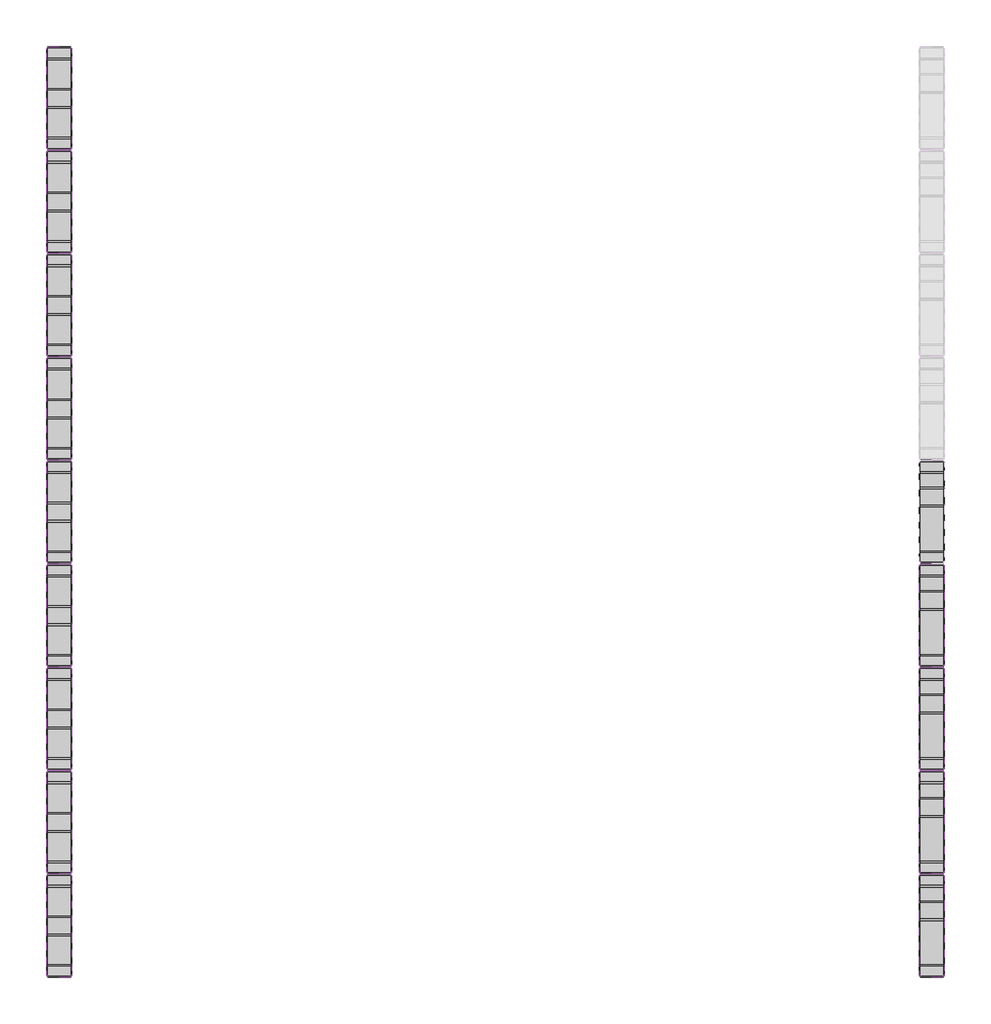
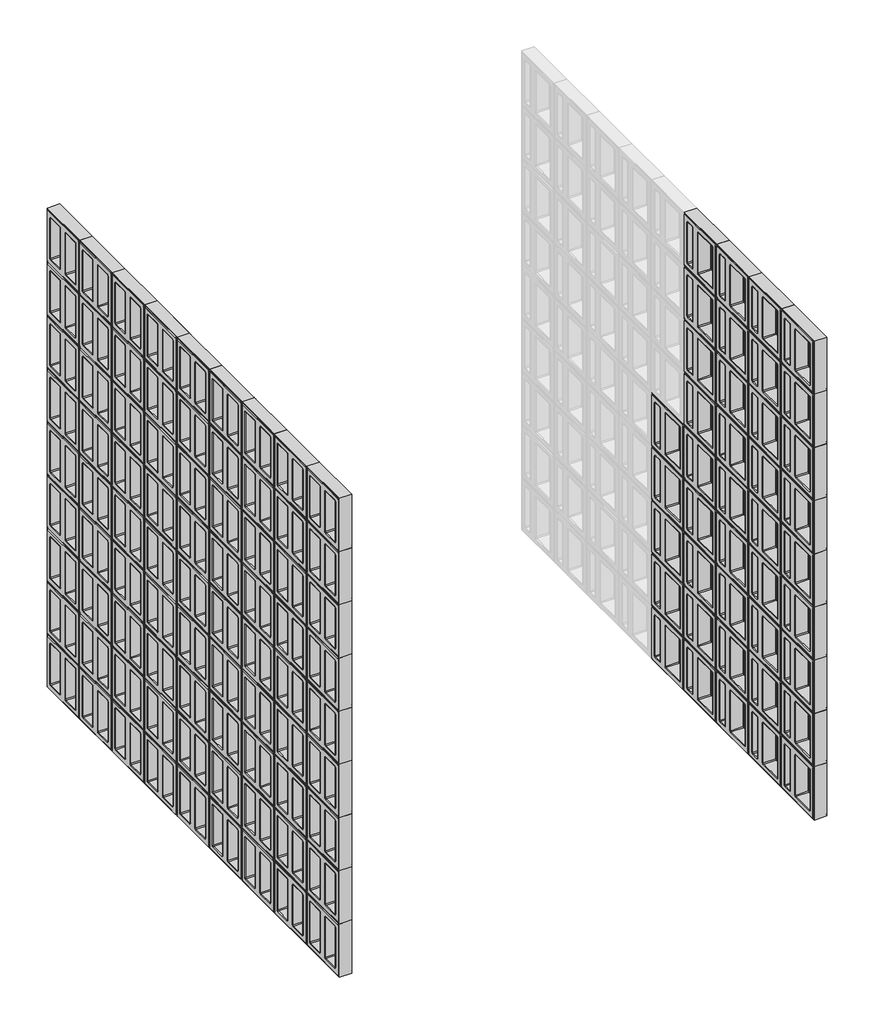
# One storey, part 1 of 8: 122 plates.
"""IFC4 building model written with IfcOpenShell, lengths in millimetres."""

from ifc_helpers import new_model, si_unit, origin, place, context, project, spatial, transform, mapped, element, save
from components import plate_08ec880d, sim_branco_8a5b93f5

model = new_model("IFC4")

# Units and contexts
model_context = context("Model", 3, world=origin())
ifc_project = project(units=[si_unit("LENGTHUNIT", "METRE", prefix="MILLI")], contexts=[model_context])

# Site, building, storey
site = spatial("IfcSite", under=ifc_project)
building = spatial("IfcBuilding", under=site)
storey = spatial("IfcBuildingStorey", under=building, Name="PORTOBELLO - SHOWROOM", Elevation=0.0)

# Plates
placement = place(None, origin())
plate_shape = plate_08ec880d(model_context)
element("IfcPlate", 1, ObjectType="PORTOBELLO - ELEMENTO ASSIM BRANCO 30X30 (PAINEL CORTINA) : ASSIM BRANCO", at=placement, inside=storey, context=model_context, shape_type="MappedRepresentation", body=[
    mapped(plate_shape, transform((149974.9354422, 3478.9733076, 0.0), x_axis=(0.0, 1.0, 0.0), y_axis=(-1.0, 0.0, 0.0), z_axis=(0.0, 0.0, 1.0))),
])
element("IfcPlate", 2, ObjectType="PORTOBELLO - ELEMENTO ASSIM BRANCO 30X30 (PAINEL CORTINA) : ASSIM BRANCO", at=placement, inside=storey, context=model_context, shape_type="MappedRepresentation", body=[
    mapped(plate_shape, transform((149974.9354422, 3478.9733076, 308.0), x_axis=(0.0, 1.0, 0.0), y_axis=(-1.0, 0.0, 0.0), z_axis=(0.0, 0.0, 1.0))),
])
element("IfcPlate", 3, ObjectType="PORTOBELLO - ELEMENTO ASSIM BRANCO 30X30 (PAINEL CORTINA) : ASSIM BRANCO", at=placement, inside=storey, context=model_context, shape_type="MappedRepresentation", body=[
    mapped(plate_shape, transform((149974.9354422, 3478.9733076, 616.0), x_axis=(0.0, 1.0, 0.0), y_axis=(-1.0, 0.0, 0.0), z_axis=(0.0, 0.0, 1.0))),
])
element("IfcPlate", 4, ObjectType="PORTOBELLO - ELEMENTO ASSIM BRANCO 30X30 (PAINEL CORTINA) : ASSIM BRANCO", at=placement, inside=storey, context=model_context, shape_type="MappedRepresentation", body=[
    mapped(plate_shape, transform((149974.9354422, 3478.9733076, 924.0), x_axis=(0.0, 1.0, 0.0), y_axis=(-1.0, 0.0, 0.0), z_axis=(0.0, 0.0, 1.0))),
])
element("IfcPlate", 5, ObjectType="PORTOBELLO - ELEMENTO ASSIM BRANCO 30X30 (PAINEL CORTINA) : ASSIM BRANCO", at=placement, inside=storey, context=model_context, shape_type="MappedRepresentation", body=[
    mapped(plate_shape, transform((149974.9354422, 3478.9733076, 1232.0), x_axis=(0.0, 1.0, 0.0), y_axis=(-1.0, 0.0, 0.0), z_axis=(0.0, 0.0, 1.0))),
])
element("IfcPlate", 6, ObjectType="PORTOBELLO - ELEMENTO ASSIM BRANCO 30X30 (PAINEL CORTINA) : ASSIM BRANCO", at=placement, inside=storey, context=model_context, shape_type="MappedRepresentation", body=[
    mapped(plate_shape, transform((149974.9354422, 3478.9733076, 1540.0), x_axis=(0.0, 1.0, 0.0), y_axis=(-1.0, 0.0, 0.0), z_axis=(0.0, 0.0, 1.0))),
])
element("IfcPlate", 7, ObjectType="PORTOBELLO - ELEMENTO ASSIM BRANCO 30X30 (PAINEL CORTINA) : ASSIM BRANCO", at=placement, inside=storey, context=model_context, shape_type="MappedRepresentation", body=[
    mapped(plate_shape, transform((149974.9354422, 3478.9733076, 1848.0), x_axis=(0.0, 1.0, 0.0), y_axis=(-1.0, 0.0, 0.0), z_axis=(0.0, 0.0, 1.0))),
])
element("IfcPlate", 8, ObjectType="PORTOBELLO - ELEMENTO ASSIM BRANCO 30X30 (PAINEL CORTINA) : ASSIM BRANCO", at=placement, inside=storey, context=model_context, shape_type="MappedRepresentation", body=[
    mapped(plate_shape, transform((149974.9354422, 3478.9733076, 2156.0), x_axis=(0.0, 1.0, 0.0), y_axis=(-1.0, 0.0, 0.0), z_axis=(0.0, 0.0, 1.0))),
])
element("IfcPlate", 9, ObjectType="PORTOBELLO - ELEMENTO ASSIM BRANCO 30X30 (PAINEL CORTINA) : ASSIM BRANCO", at=placement, inside=storey, context=model_context, shape_type="MappedRepresentation", body=[
    mapped(plate_shape, transform((149974.9354422, 3786.9733077, 0.0), x_axis=(0.0, 1.0, 0.0), y_axis=(-1.0, 0.0, 0.0), z_axis=(0.0, 0.0, 1.0))),
])
element("IfcPlate", 10, ObjectType="PORTOBELLO - ELEMENTO ASSIM BRANCO 30X30 (PAINEL CORTINA) : ASSIM BRANCO", at=placement, inside=storey, context=model_context, shape_type="MappedRepresentation", body=[
    mapped(plate_shape, transform((149974.9354422, 3786.9733077, 308.0), x_axis=(0.0, 1.0, 0.0), y_axis=(-1.0, 0.0, 0.0), z_axis=(0.0, 0.0, 1.0))),
])
element("IfcPlate", 11, ObjectType="PORTOBELLO - ELEMENTO ASSIM BRANCO 30X30 (PAINEL CORTINA) : ASSIM BRANCO", at=placement, inside=storey, context=model_context, shape_type="MappedRepresentation", body=[
    mapped(plate_shape, transform((149974.9354422, 3786.9733077, 616.0), x_axis=(0.0, 1.0, 0.0), y_axis=(-1.0, 0.0, 0.0), z_axis=(0.0, 0.0, 1.0))),
])
element("IfcPlate", 12, ObjectType="PORTOBELLO - ELEMENTO ASSIM BRANCO 30X30 (PAINEL CORTINA) : ASSIM BRANCO", at=placement, inside=storey, context=model_context, shape_type="MappedRepresentation", body=[
    mapped(plate_shape, transform((149974.9354422, 3786.9733077, 924.0), x_axis=(0.0, 1.0, 0.0), y_axis=(-1.0, 0.0, 0.0), z_axis=(0.0, 0.0, 1.0))),
])
element("IfcPlate", 13, ObjectType="PORTOBELLO - ELEMENTO ASSIM BRANCO 30X30 (PAINEL CORTINA) : ASSIM BRANCO", at=placement, inside=storey, context=model_context, shape_type="MappedRepresentation", body=[
    mapped(plate_shape, transform((149974.9354422, 3786.9733077, 1232.0), x_axis=(0.0, 1.0, 0.0), y_axis=(-1.0, 0.0, 0.0), z_axis=(0.0, 0.0, 1.0))),
])
element("IfcPlate", 14, ObjectType="PORTOBELLO - ELEMENTO ASSIM BRANCO 30X30 (PAINEL CORTINA) : ASSIM BRANCO", at=placement, inside=storey, context=model_context, shape_type="MappedRepresentation", body=[
    mapped(plate_shape, transform((149974.9354422, 3786.9733077, 1540.0), x_axis=(0.0, 1.0, 0.0), y_axis=(-1.0, 0.0, 0.0), z_axis=(0.0, 0.0, 1.0))),
])
element("IfcPlate", 15, ObjectType="PORTOBELLO - ELEMENTO ASSIM BRANCO 30X30 (PAINEL CORTINA) : ASSIM BRANCO", at=placement, inside=storey, context=model_context, shape_type="MappedRepresentation", body=[
    mapped(plate_shape, transform((149974.9354422, 3786.9733077, 1848.0), x_axis=(0.0, 1.0, 0.0), y_axis=(-1.0, 0.0, 0.0), z_axis=(0.0, 0.0, 1.0))),
])
element("IfcPlate", 16, ObjectType="PORTOBELLO - ELEMENTO ASSIM BRANCO 30X30 (PAINEL CORTINA) : ASSIM BRANCO", at=placement, inside=storey, context=model_context, shape_type="MappedRepresentation", body=[
    mapped(plate_shape, transform((149974.9354422, 3786.9733077, 2156.0), x_axis=(0.0, 1.0, 0.0), y_axis=(-1.0, 0.0, 0.0), z_axis=(0.0, 0.0, 1.0))),
])
element("IfcPlate", 17, ObjectType="PORTOBELLO - ELEMENTO ASSIM BRANCO 30X30 (PAINEL CORTINA) : ASSIM BRANCO", at=placement, inside=storey, context=model_context, shape_type="MappedRepresentation", body=[
    mapped(plate_shape, transform((149974.9354422, 4094.9733077, 0.0), x_axis=(0.0, 1.0, 0.0), y_axis=(-1.0, 0.0, 0.0), z_axis=(0.0, 0.0, 1.0))),
])
element("IfcPlate", 18, ObjectType="PORTOBELLO - ELEMENTO ASSIM BRANCO 30X30 (PAINEL CORTINA) : ASSIM BRANCO", at=placement, inside=storey, context=model_context, shape_type="MappedRepresentation", body=[
    mapped(plate_shape, transform((149974.9354422, 4094.9733077, 308.0), x_axis=(0.0, 1.0, 0.0), y_axis=(-1.0, 0.0, 0.0), z_axis=(0.0, 0.0, 1.0))),
])
element("IfcPlate", 19, ObjectType="PORTOBELLO - ELEMENTO ASSIM BRANCO 30X30 (PAINEL CORTINA) : ASSIM BRANCO", at=placement, inside=storey, context=model_context, shape_type="MappedRepresentation", body=[
    mapped(plate_shape, transform((149974.9354422, 4094.9733077, 616.0), x_axis=(0.0, 1.0, 0.0), y_axis=(-1.0, 0.0, 0.0), z_axis=(0.0, 0.0, 1.0))),
])
element("IfcPlate", 20, ObjectType="PORTOBELLO - ELEMENTO ASSIM BRANCO 30X30 (PAINEL CORTINA) : ASSIM BRANCO", at=placement, inside=storey, context=model_context, shape_type="MappedRepresentation", body=[
    mapped(plate_shape, transform((149974.9354422, 4094.9733077, 924.0), x_axis=(0.0, 1.0, 0.0), y_axis=(-1.0, 0.0, 0.0), z_axis=(0.0, 0.0, 1.0))),
])
element("IfcPlate", 21, ObjectType="PORTOBELLO - ELEMENTO ASSIM BRANCO 30X30 (PAINEL CORTINA) : ASSIM BRANCO", at=placement, inside=storey, context=model_context, shape_type="MappedRepresentation", body=[
    mapped(plate_shape, transform((149974.9354422, 4094.9733077, 1232.0), x_axis=(0.0, 1.0, 0.0), y_axis=(-1.0, 0.0, 0.0), z_axis=(0.0, 0.0, 1.0))),
])
element("IfcPlate", 22, ObjectType="PORTOBELLO - ELEMENTO ASSIM BRANCO 30X30 (PAINEL CORTINA) : ASSIM BRANCO", at=placement, inside=storey, context=model_context, shape_type="MappedRepresentation", body=[
    mapped(plate_shape, transform((149974.9354422, 4094.9733077, 1540.0), x_axis=(0.0, 1.0, 0.0), y_axis=(-1.0, 0.0, 0.0), z_axis=(0.0, 0.0, 1.0))),
])
element("IfcPlate", 23, ObjectType="PORTOBELLO - ELEMENTO ASSIM BRANCO 30X30 (PAINEL CORTINA) : ASSIM BRANCO", at=placement, inside=storey, context=model_context, shape_type="MappedRepresentation", body=[
    mapped(plate_shape, transform((149974.9354422, 4094.9733077, 1848.0), x_axis=(0.0, 1.0, 0.0), y_axis=(-1.0, 0.0, 0.0), z_axis=(0.0, 0.0, 1.0))),
])
element("IfcPlate", 24, ObjectType="PORTOBELLO - ELEMENTO ASSIM BRANCO 30X30 (PAINEL CORTINA) : ASSIM BRANCO", at=placement, inside=storey, context=model_context, shape_type="MappedRepresentation", body=[
    mapped(plate_shape, transform((149974.9354422, 4094.9733077, 2156.0), x_axis=(0.0, 1.0, 0.0), y_axis=(-1.0, 0.0, 0.0), z_axis=(0.0, 0.0, 1.0))),
])
element("IfcPlate", 25, ObjectType="PORTOBELLO - ELEMENTO ASSIM BRANCO 30X30 (PAINEL CORTINA) : ASSIM BRANCO", at=placement, inside=storey, context=model_context, shape_type="MappedRepresentation", body=[
    mapped(plate_shape, transform((149974.9354422, 4402.9733077, 0.0), x_axis=(0.0, 1.0, 0.0), y_axis=(-1.0, 0.0, 0.0), z_axis=(0.0, 0.0, 1.0))),
])
element("IfcPlate", 26, ObjectType="PORTOBELLO - ELEMENTO ASSIM BRANCO 30X30 (PAINEL CORTINA) : ASSIM BRANCO", at=placement, inside=storey, context=model_context, shape_type="MappedRepresentation", body=[
    mapped(plate_shape, transform((149974.9354422, 4402.9733077, 308.0), x_axis=(0.0, 1.0, 0.0), y_axis=(-1.0, 0.0, 0.0), z_axis=(0.0, 0.0, 1.0))),
])
element("IfcPlate", 27, ObjectType="PORTOBELLO - ELEMENTO ASSIM BRANCO 30X30 (PAINEL CORTINA) : ASSIM BRANCO", at=placement, inside=storey, context=model_context, shape_type="MappedRepresentation", body=[
    mapped(plate_shape, transform((149974.9354422, 4402.9733077, 616.0), x_axis=(0.0, 1.0, 0.0), y_axis=(-1.0, 0.0, 0.0), z_axis=(0.0, 0.0, 1.0))),
])
element("IfcPlate", 28, ObjectType="PORTOBELLO - ELEMENTO ASSIM BRANCO 30X30 (PAINEL CORTINA) : ASSIM BRANCO", at=placement, inside=storey, context=model_context, shape_type="MappedRepresentation", body=[
    mapped(plate_shape, transform((149974.9354422, 4402.9733077, 924.0), x_axis=(0.0, 1.0, 0.0), y_axis=(-1.0, 0.0, 0.0), z_axis=(0.0, 0.0, 1.0))),
])
element("IfcPlate", 29, ObjectType="PORTOBELLO - ELEMENTO ASSIM BRANCO 30X30 (PAINEL CORTINA) : ASSIM BRANCO", at=placement, inside=storey, context=model_context, shape_type="MappedRepresentation", body=[
    mapped(plate_shape, transform((149974.9354422, 4402.9733077, 1232.0), x_axis=(0.0, 1.0, 0.0), y_axis=(-1.0, 0.0, 0.0), z_axis=(0.0, 0.0, 1.0))),
])
element("IfcPlate", 30, ObjectType="PORTOBELLO - ELEMENTO ASSIM BRANCO 30X30 (PAINEL CORTINA) : ASSIM BRANCO", at=placement, inside=storey, context=model_context, shape_type="MappedRepresentation", body=[
    mapped(plate_shape, transform((149974.9354422, 4402.9733077, 1540.0), x_axis=(0.0, 1.0, 0.0), y_axis=(-1.0, 0.0, 0.0), z_axis=(0.0, 0.0, 1.0))),
])
element("IfcPlate", 31, ObjectType="PORTOBELLO - ELEMENTO ASSIM BRANCO 30X30 (PAINEL CORTINA) : ASSIM BRANCO", at=placement, inside=storey, context=model_context, shape_type="MappedRepresentation", body=[
    mapped(plate_shape, transform((149974.9354422, 4402.9733077, 1848.0), x_axis=(0.0, 1.0, 0.0), y_axis=(-1.0, 0.0, 0.0), z_axis=(0.0, 0.0, 1.0))),
])
element("IfcPlate", 32, ObjectType="PORTOBELLO - ELEMENTO ASSIM BRANCO 30X30 (PAINEL CORTINA) : ASSIM BRANCO", at=placement, inside=storey, context=model_context, shape_type="MappedRepresentation", body=[
    mapped(plate_shape, transform((149974.9354422, 4402.9733077, 2156.0), x_axis=(0.0, 1.0, 0.0), y_axis=(-1.0, 0.0, 0.0), z_axis=(0.0, 0.0, 1.0))),
])
element("IfcPlate", 33, ObjectType="PORTOBELLO - ELEMENTO ASSIM BRANCO 30X30 (PAINEL CORTINA) : ASSIM BRANCO", at=placement, inside=storey, context=model_context, shape_type="MappedRepresentation", body=[
    mapped(plate_shape, transform((149974.9354422, 4710.9733077, 0.0), x_axis=(0.0, 1.0, 0.0), y_axis=(-1.0, 0.0, 0.0), z_axis=(0.0, 0.0, 1.0))),
])
element("IfcPlate", 34, ObjectType="PORTOBELLO - ELEMENTO ASSIM BRANCO 30X30 (PAINEL CORTINA) : ASSIM BRANCO", at=placement, inside=storey, context=model_context, shape_type="MappedRepresentation", body=[
    mapped(plate_shape, transform((149974.9354422, 4710.9733077, 308.0), x_axis=(0.0, 1.0, 0.0), y_axis=(-1.0, 0.0, 0.0), z_axis=(0.0, 0.0, 1.0))),
])
element("IfcPlate", 35, ObjectType="PORTOBELLO - ELEMENTO ASSIM BRANCO 30X30 (PAINEL CORTINA) : ASSIM BRANCO", at=placement, inside=storey, context=model_context, shape_type="MappedRepresentation", body=[
    mapped(plate_shape, transform((149974.9354422, 4710.9733077, 616.0), x_axis=(0.0, 1.0, 0.0), y_axis=(-1.0, 0.0, 0.0), z_axis=(0.0, 0.0, 1.0))),
])
element("IfcPlate", 36, ObjectType="PORTOBELLO - ELEMENTO ASSIM BRANCO 30X30 (PAINEL CORTINA) : ASSIM BRANCO", at=placement, inside=storey, context=model_context, shape_type="MappedRepresentation", body=[
    mapped(plate_shape, transform((149974.9354422, 4710.9733077, 924.0), x_axis=(0.0, 1.0, 0.0), y_axis=(-1.0, 0.0, 0.0), z_axis=(0.0, 0.0, 1.0))),
])
element("IfcPlate", 37, ObjectType="PORTOBELLO - ELEMENTO ASSIM BRANCO 30X30 (PAINEL CORTINA) : ASSIM BRANCO", at=placement, inside=storey, context=model_context, shape_type="MappedRepresentation", body=[
    mapped(plate_shape, transform((149974.9354422, 4710.9733077, 1232.0), x_axis=(0.0, 1.0, 0.0), y_axis=(-1.0, 0.0, 0.0), z_axis=(0.0, 0.0, 1.0))),
])
element("IfcPlate", 38, ObjectType="PORTOBELLO - ELEMENTO ASSIM BRANCO 30X30 (PAINEL CORTINA) : ASSIM BRANCO", at=placement, inside=storey, context=model_context, shape_type="MappedRepresentation", body=[
    mapped(plate_shape, transform((149974.9354422, 3478.9733076, 2464.0), x_axis=(0.0, 1.0, 0.0), y_axis=(-1.0, 0.0, 0.0), z_axis=(0.0, 0.0, 1.0))),
])
element("IfcPlate", 39, ObjectType="PORTOBELLO - ELEMENTO ASSIM BRANCO 30X30 (PAINEL CORTINA) : ASSIM BRANCO", at=placement, inside=storey, context=model_context, shape_type="MappedRepresentation", body=[
    mapped(plate_shape, transform((149974.9354422, 3786.9733077, 2464.0), x_axis=(0.0, 1.0, 0.0), y_axis=(-1.0, 0.0, 0.0), z_axis=(0.0, 0.0, 1.0))),
])
element("IfcPlate", 40, ObjectType="PORTOBELLO - ELEMENTO ASSIM BRANCO 30X30 (PAINEL CORTINA) : ASSIM BRANCO", at=placement, inside=storey, context=model_context, shape_type="MappedRepresentation", body=[
    mapped(plate_shape, transform((149974.9354422, 4094.9733077, 2464.0), x_axis=(0.0, 1.0, 0.0), y_axis=(-1.0, 0.0, 0.0), z_axis=(0.0, 0.0, 1.0))),
])
element("IfcPlate", 41, ObjectType="PORTOBELLO - ELEMENTO ASSIM BRANCO 30X30 (PAINEL CORTINA) : ASSIM BRANCO", at=placement, inside=storey, context=model_context, shape_type="MappedRepresentation", body=[
    mapped(plate_shape, transform((149974.9354422, 4402.9733077, 2464.0), x_axis=(0.0, 1.0, 0.0), y_axis=(-1.0, 0.0, 0.0), z_axis=(0.0, 0.0, 1.0))),
])
sim_branco_shape = sim_branco_8a5b93f5(model_context)
element("IfcPlate", 42, ObjectType="PORTOBELLO - ELEMENTO SIM BRANCO 30X30 (PAINEL CORTINA) : SIM BRANCO", at=placement, inside=storey, context=model_context, shape_type="MappedRepresentation", body=[
    mapped(sim_branco_shape, transform((147374.9354422, 3478.9733076, 0.0), x_axis=(0.0, 1.0, 0.0), y_axis=(-1.0, 0.0, 0.0), z_axis=(0.0, 0.0, 1.0))),
])
element("IfcPlate", 43, ObjectType="PORTOBELLO - ELEMENTO SIM BRANCO 30X30 (PAINEL CORTINA) : SIM BRANCO", at=placement, inside=storey, context=model_context, shape_type="MappedRepresentation", body=[
    mapped(sim_branco_shape, transform((147374.9354422, 3786.9733077, 0.0), x_axis=(0.0, 1.0, 0.0), y_axis=(-1.0, 0.0, 0.0), z_axis=(0.0, 0.0, 1.0))),
])
element("IfcPlate", 44, ObjectType="PORTOBELLO - ELEMENTO SIM BRANCO 30X30 (PAINEL CORTINA) : SIM BRANCO", at=placement, inside=storey, context=model_context, shape_type="MappedRepresentation", body=[
    mapped(sim_branco_shape, transform((147374.9354422, 4094.9733077, 0.0), x_axis=(0.0, 1.0, 0.0), y_axis=(-1.0, 0.0, 0.0), z_axis=(0.0, 0.0, 1.0))),
])
element("IfcPlate", 45, ObjectType="PORTOBELLO - ELEMENTO SIM BRANCO 30X30 (PAINEL CORTINA) : SIM BRANCO", at=placement, inside=storey, context=model_context, shape_type="MappedRepresentation", body=[
    mapped(sim_branco_shape, transform((147374.9354422, 4402.9733077, 0.0), x_axis=(0.0, 1.0, 0.0), y_axis=(-1.0, 0.0, 0.0), z_axis=(0.0, 0.0, 1.0))),
])
element("IfcPlate", 46, ObjectType="PORTOBELLO - ELEMENTO SIM BRANCO 30X30 (PAINEL CORTINA) : SIM BRANCO", at=placement, inside=storey, context=model_context, shape_type="MappedRepresentation", body=[
    mapped(sim_branco_shape, transform((147374.9354422, 4710.9733077, 0.0), x_axis=(0.0, 1.0, 0.0), y_axis=(-1.0, 0.0, 0.0), z_axis=(0.0, 0.0, 1.0))),
])
element("IfcPlate", 47, ObjectType="PORTOBELLO - ELEMENTO SIM BRANCO 30X30 (PAINEL CORTINA) : SIM BRANCO", at=placement, inside=storey, context=model_context, shape_type="MappedRepresentation", body=[
    mapped(sim_branco_shape, transform((147374.9354422, 5018.9733077, 0.0), x_axis=(0.0, 1.0, 0.0), y_axis=(-1.0, 0.0, 0.0), z_axis=(0.0, 0.0, 1.0))),
])
element("IfcPlate", 48, ObjectType="PORTOBELLO - ELEMENTO SIM BRANCO 30X30 (PAINEL CORTINA) : SIM BRANCO", at=placement, inside=storey, context=model_context, shape_type="MappedRepresentation", body=[
    mapped(sim_branco_shape, transform((147374.9354422, 5326.9733077, 0.0), x_axis=(0.0, 1.0, 0.0), y_axis=(-1.0, 0.0, 0.0), z_axis=(0.0, 0.0, 1.0))),
])
element("IfcPlate", 49, ObjectType="PORTOBELLO - ELEMENTO SIM BRANCO 30X30 (PAINEL CORTINA) : SIM BRANCO", at=placement, inside=storey, context=model_context, shape_type="MappedRepresentation", body=[
    mapped(sim_branco_shape, transform((147374.9354422, 5634.9733077, 0.0), x_axis=(0.0, 1.0, 0.0), y_axis=(-1.0, 0.0, 0.0), z_axis=(0.0, 0.0, 1.0))),
])
element("IfcPlate", 50, ObjectType="PORTOBELLO - ELEMENTO SIM BRANCO 30X30 (PAINEL CORTINA) : SIM BRANCO", at=placement, inside=storey, context=model_context, shape_type="MappedRepresentation", body=[
    mapped(sim_branco_shape, transform((147374.9354422, 5942.9733077, 0.0), x_axis=(0.0, 1.0, 0.0), y_axis=(-1.0, 0.0, 0.0), z_axis=(0.0, 0.0, 1.0))),
])
element("IfcPlate", 51, ObjectType="PORTOBELLO - ELEMENTO SIM BRANCO 30X30 (PAINEL CORTINA) : SIM BRANCO", at=placement, inside=storey, context=model_context, shape_type="MappedRepresentation", body=[
    mapped(sim_branco_shape, transform((147374.9354422, 3478.9733076, 308.0), x_axis=(0.0, 1.0, 0.0), y_axis=(-1.0, 0.0, 0.0), z_axis=(0.0, 0.0, 1.0))),
])
element("IfcPlate", 52, ObjectType="PORTOBELLO - ELEMENTO SIM BRANCO 30X30 (PAINEL CORTINA) : SIM BRANCO", at=placement, inside=storey, context=model_context, shape_type="MappedRepresentation", body=[
    mapped(sim_branco_shape, transform((147374.9354422, 3786.9733077, 308.0), x_axis=(0.0, 1.0, 0.0), y_axis=(-1.0, 0.0, 0.0), z_axis=(0.0, 0.0, 1.0))),
])
element("IfcPlate", 53, ObjectType="PORTOBELLO - ELEMENTO SIM BRANCO 30X30 (PAINEL CORTINA) : SIM BRANCO", at=placement, inside=storey, context=model_context, shape_type="MappedRepresentation", body=[
    mapped(sim_branco_shape, transform((147374.9354422, 4094.9733077, 308.0), x_axis=(0.0, 1.0, 0.0), y_axis=(-1.0, 0.0, 0.0), z_axis=(0.0, 0.0, 1.0))),
])
element("IfcPlate", 54, ObjectType="PORTOBELLO - ELEMENTO SIM BRANCO 30X30 (PAINEL CORTINA) : SIM BRANCO", at=placement, inside=storey, context=model_context, shape_type="MappedRepresentation", body=[
    mapped(sim_branco_shape, transform((147374.9354422, 4402.9733077, 308.0), x_axis=(0.0, 1.0, 0.0), y_axis=(-1.0, 0.0, 0.0), z_axis=(0.0, 0.0, 1.0))),
])
element("IfcPlate", 55, ObjectType="PORTOBELLO - ELEMENTO SIM BRANCO 30X30 (PAINEL CORTINA) : SIM BRANCO", at=placement, inside=storey, context=model_context, shape_type="MappedRepresentation", body=[
    mapped(sim_branco_shape, transform((147374.9354422, 4710.9733077, 308.0), x_axis=(0.0, 1.0, 0.0), y_axis=(-1.0, 0.0, 0.0), z_axis=(0.0, 0.0, 1.0))),
])
element("IfcPlate", 56, ObjectType="PORTOBELLO - ELEMENTO SIM BRANCO 30X30 (PAINEL CORTINA) : SIM BRANCO", at=placement, inside=storey, context=model_context, shape_type="MappedRepresentation", body=[
    mapped(sim_branco_shape, transform((147374.9354422, 5018.9733077, 308.0), x_axis=(0.0, 1.0, 0.0), y_axis=(-1.0, 0.0, 0.0), z_axis=(0.0, 0.0, 1.0))),
])
element("IfcPlate", 57, ObjectType="PORTOBELLO - ELEMENTO SIM BRANCO 30X30 (PAINEL CORTINA) : SIM BRANCO", at=placement, inside=storey, context=model_context, shape_type="MappedRepresentation", body=[
    mapped(sim_branco_shape, transform((147374.9354422, 5326.9733077, 308.0), x_axis=(0.0, 1.0, 0.0), y_axis=(-1.0, 0.0, 0.0), z_axis=(0.0, 0.0, 1.0))),
])
element("IfcPlate", 58, ObjectType="PORTOBELLO - ELEMENTO SIM BRANCO 30X30 (PAINEL CORTINA) : SIM BRANCO", at=placement, inside=storey, context=model_context, shape_type="MappedRepresentation", body=[
    mapped(sim_branco_shape, transform((147374.9354422, 5634.9733077, 308.0), x_axis=(0.0, 1.0, 0.0), y_axis=(-1.0, 0.0, 0.0), z_axis=(0.0, 0.0, 1.0))),
])
element("IfcPlate", 59, ObjectType="PORTOBELLO - ELEMENTO SIM BRANCO 30X30 (PAINEL CORTINA) : SIM BRANCO", at=placement, inside=storey, context=model_context, shape_type="MappedRepresentation", body=[
    mapped(sim_branco_shape, transform((147374.9354422, 5942.9733077, 308.0), x_axis=(0.0, 1.0, 0.0), y_axis=(-1.0, 0.0, 0.0), z_axis=(0.0, 0.0, 1.0))),
])
element("IfcPlate", 60, ObjectType="PORTOBELLO - ELEMENTO SIM BRANCO 30X30 (PAINEL CORTINA) : SIM BRANCO", at=placement, inside=storey, context=model_context, shape_type="MappedRepresentation", body=[
    mapped(sim_branco_shape, transform((147374.9354422, 3478.9733076, 616.0), x_axis=(0.0, 1.0, 0.0), y_axis=(-1.0, 0.0, 0.0), z_axis=(0.0, 0.0, 1.0))),
])
element("IfcPlate", 61, ObjectType="PORTOBELLO - ELEMENTO SIM BRANCO 30X30 (PAINEL CORTINA) : SIM BRANCO", at=placement, inside=storey, context=model_context, shape_type="MappedRepresentation", body=[
    mapped(sim_branco_shape, transform((147374.9354422, 3786.9733077, 616.0), x_axis=(0.0, 1.0, 0.0), y_axis=(-1.0, 0.0, 0.0), z_axis=(0.0, 0.0, 1.0))),
])
element("IfcPlate", 62, ObjectType="PORTOBELLO - ELEMENTO SIM BRANCO 30X30 (PAINEL CORTINA) : SIM BRANCO", at=placement, inside=storey, context=model_context, shape_type="MappedRepresentation", body=[
    mapped(sim_branco_shape, transform((147374.9354422, 4094.9733077, 616.0), x_axis=(0.0, 1.0, 0.0), y_axis=(-1.0, 0.0, 0.0), z_axis=(0.0, 0.0, 1.0))),
])
element("IfcPlate", 63, ObjectType="PORTOBELLO - ELEMENTO SIM BRANCO 30X30 (PAINEL CORTINA) : SIM BRANCO", at=placement, inside=storey, context=model_context, shape_type="MappedRepresentation", body=[
    mapped(sim_branco_shape, transform((147374.9354422, 4402.9733077, 616.0), x_axis=(0.0, 1.0, 0.0), y_axis=(-1.0, 0.0, 0.0), z_axis=(0.0, 0.0, 1.0))),
])
element("IfcPlate", 64, ObjectType="PORTOBELLO - ELEMENTO SIM BRANCO 30X30 (PAINEL CORTINA) : SIM BRANCO", at=placement, inside=storey, context=model_context, shape_type="MappedRepresentation", body=[
    mapped(sim_branco_shape, transform((147374.9354422, 4710.9733077, 616.0), x_axis=(0.0, 1.0, 0.0), y_axis=(-1.0, 0.0, 0.0), z_axis=(0.0, 0.0, 1.0))),
])
element("IfcPlate", 65, ObjectType="PORTOBELLO - ELEMENTO SIM BRANCO 30X30 (PAINEL CORTINA) : SIM BRANCO", at=placement, inside=storey, context=model_context, shape_type="MappedRepresentation", body=[
    mapped(sim_branco_shape, transform((147374.9354422, 5018.9733077, 616.0), x_axis=(0.0, 1.0, 0.0), y_axis=(-1.0, 0.0, 0.0), z_axis=(0.0, 0.0, 1.0))),
])
element("IfcPlate", 66, ObjectType="PORTOBELLO - ELEMENTO SIM BRANCO 30X30 (PAINEL CORTINA) : SIM BRANCO", at=placement, inside=storey, context=model_context, shape_type="MappedRepresentation", body=[
    mapped(sim_branco_shape, transform((147374.9354422, 5326.9733077, 616.0), x_axis=(0.0, 1.0, 0.0), y_axis=(-1.0, 0.0, 0.0), z_axis=(0.0, 0.0, 1.0))),
])
element("IfcPlate", 67, ObjectType="PORTOBELLO - ELEMENTO SIM BRANCO 30X30 (PAINEL CORTINA) : SIM BRANCO", at=placement, inside=storey, context=model_context, shape_type="MappedRepresentation", body=[
    mapped(sim_branco_shape, transform((147374.9354422, 5634.9733077, 616.0), x_axis=(0.0, 1.0, 0.0), y_axis=(-1.0, 0.0, 0.0), z_axis=(0.0, 0.0, 1.0))),
])
element("IfcPlate", 68, ObjectType="PORTOBELLO - ELEMENTO SIM BRANCO 30X30 (PAINEL CORTINA) : SIM BRANCO", at=placement, inside=storey, context=model_context, shape_type="MappedRepresentation", body=[
    mapped(sim_branco_shape, transform((147374.9354422, 5942.9733077, 616.0), x_axis=(0.0, 1.0, 0.0), y_axis=(-1.0, 0.0, 0.0), z_axis=(0.0, 0.0, 1.0))),
])
element("IfcPlate", 69, ObjectType="PORTOBELLO - ELEMENTO SIM BRANCO 30X30 (PAINEL CORTINA) : SIM BRANCO", at=placement, inside=storey, context=model_context, shape_type="MappedRepresentation", body=[
    mapped(sim_branco_shape, transform((147374.9354422, 3478.9733076, 924.0), x_axis=(0.0, 1.0, 0.0), y_axis=(-1.0, 0.0, 0.0), z_axis=(0.0, 0.0, 1.0))),
])
element("IfcPlate", 70, ObjectType="PORTOBELLO - ELEMENTO SIM BRANCO 30X30 (PAINEL CORTINA) : SIM BRANCO", at=placement, inside=storey, context=model_context, shape_type="MappedRepresentation", body=[
    mapped(sim_branco_shape, transform((147374.9354422, 3786.9733077, 924.0), x_axis=(0.0, 1.0, 0.0), y_axis=(-1.0, 0.0, 0.0), z_axis=(0.0, 0.0, 1.0))),
])
element("IfcPlate", 71, ObjectType="PORTOBELLO - ELEMENTO SIM BRANCO 30X30 (PAINEL CORTINA) : SIM BRANCO", at=placement, inside=storey, context=model_context, shape_type="MappedRepresentation", body=[
    mapped(sim_branco_shape, transform((147374.9354422, 4094.9733077, 924.0), x_axis=(0.0, 1.0, 0.0), y_axis=(-1.0, 0.0, 0.0), z_axis=(0.0, 0.0, 1.0))),
])
element("IfcPlate", 72, ObjectType="PORTOBELLO - ELEMENTO SIM BRANCO 30X30 (PAINEL CORTINA) : SIM BRANCO", at=placement, inside=storey, context=model_context, shape_type="MappedRepresentation", body=[
    mapped(sim_branco_shape, transform((147374.9354422, 4402.9733077, 924.0), x_axis=(0.0, 1.0, 0.0), y_axis=(-1.0, 0.0, 0.0), z_axis=(0.0, 0.0, 1.0))),
])
element("IfcPlate", 73, ObjectType="PORTOBELLO - ELEMENTO SIM BRANCO 30X30 (PAINEL CORTINA) : SIM BRANCO", at=placement, inside=storey, context=model_context, shape_type="MappedRepresentation", body=[
    mapped(sim_branco_shape, transform((147374.9354422, 4710.9733077, 924.0), x_axis=(0.0, 1.0, 0.0), y_axis=(-1.0, 0.0, 0.0), z_axis=(0.0, 0.0, 1.0))),
])
element("IfcPlate", 74, ObjectType="PORTOBELLO - ELEMENTO SIM BRANCO 30X30 (PAINEL CORTINA) : SIM BRANCO", at=placement, inside=storey, context=model_context, shape_type="MappedRepresentation", body=[
    mapped(sim_branco_shape, transform((147374.9354422, 5018.9733077, 924.0), x_axis=(0.0, 1.0, 0.0), y_axis=(-1.0, 0.0, 0.0), z_axis=(0.0, 0.0, 1.0))),
])
element("IfcPlate", 75, ObjectType="PORTOBELLO - ELEMENTO SIM BRANCO 30X30 (PAINEL CORTINA) : SIM BRANCO", at=placement, inside=storey, context=model_context, shape_type="MappedRepresentation", body=[
    mapped(sim_branco_shape, transform((147374.9354422, 5326.9733077, 924.0), x_axis=(0.0, 1.0, 0.0), y_axis=(-1.0, 0.0, 0.0), z_axis=(0.0, 0.0, 1.0))),
])
element("IfcPlate", 76, ObjectType="PORTOBELLO - ELEMENTO SIM BRANCO 30X30 (PAINEL CORTINA) : SIM BRANCO", at=placement, inside=storey, context=model_context, shape_type="MappedRepresentation", body=[
    mapped(sim_branco_shape, transform((147374.9354422, 5634.9733077, 924.0), x_axis=(0.0, 1.0, 0.0), y_axis=(-1.0, 0.0, 0.0), z_axis=(0.0, 0.0, 1.0))),
])
element("IfcPlate", 77, ObjectType="PORTOBELLO - ELEMENTO SIM BRANCO 30X30 (PAINEL CORTINA) : SIM BRANCO", at=placement, inside=storey, context=model_context, shape_type="MappedRepresentation", body=[
    mapped(sim_branco_shape, transform((147374.9354422, 5942.9733077, 924.0), x_axis=(0.0, 1.0, 0.0), y_axis=(-1.0, 0.0, 0.0), z_axis=(0.0, 0.0, 1.0))),
])
element("IfcPlate", 78, ObjectType="PORTOBELLO - ELEMENTO SIM BRANCO 30X30 (PAINEL CORTINA) : SIM BRANCO", at=placement, inside=storey, context=model_context, shape_type="MappedRepresentation", body=[
    mapped(sim_branco_shape, transform((147374.9354422, 3478.9733076, 1232.0), x_axis=(0.0, 1.0, 0.0), y_axis=(-1.0, 0.0, 0.0), z_axis=(0.0, 0.0, 1.0))),
])
element("IfcPlate", 79, ObjectType="PORTOBELLO - ELEMENTO SIM BRANCO 30X30 (PAINEL CORTINA) : SIM BRANCO", at=placement, inside=storey, context=model_context, shape_type="MappedRepresentation", body=[
    mapped(sim_branco_shape, transform((147374.9354422, 3786.9733077, 1232.0), x_axis=(0.0, 1.0, 0.0), y_axis=(-1.0, 0.0, 0.0), z_axis=(0.0, 0.0, 1.0))),
])
element("IfcPlate", 80, ObjectType="PORTOBELLO - ELEMENTO SIM BRANCO 30X30 (PAINEL CORTINA) : SIM BRANCO", at=placement, inside=storey, context=model_context, shape_type="MappedRepresentation", body=[
    mapped(sim_branco_shape, transform((147374.9354422, 4094.9733077, 1232.0), x_axis=(0.0, 1.0, 0.0), y_axis=(-1.0, 0.0, 0.0), z_axis=(0.0, 0.0, 1.0))),
])
element("IfcPlate", 81, ObjectType="PORTOBELLO - ELEMENTO SIM BRANCO 30X30 (PAINEL CORTINA) : SIM BRANCO", at=placement, inside=storey, context=model_context, shape_type="MappedRepresentation", body=[
    mapped(sim_branco_shape, transform((147374.9354422, 4402.9733077, 1232.0), x_axis=(0.0, 1.0, 0.0), y_axis=(-1.0, 0.0, 0.0), z_axis=(0.0, 0.0, 1.0))),
])
element("IfcPlate", 82, ObjectType="PORTOBELLO - ELEMENTO SIM BRANCO 30X30 (PAINEL CORTINA) : SIM BRANCO", at=placement, inside=storey, context=model_context, shape_type="MappedRepresentation", body=[
    mapped(sim_branco_shape, transform((147374.9354422, 4710.9733077, 1232.0), x_axis=(0.0, 1.0, 0.0), y_axis=(-1.0, 0.0, 0.0), z_axis=(0.0, 0.0, 1.0))),
])
element("IfcPlate", 83, ObjectType="PORTOBELLO - ELEMENTO SIM BRANCO 30X30 (PAINEL CORTINA) : SIM BRANCO", at=placement, inside=storey, context=model_context, shape_type="MappedRepresentation", body=[
    mapped(sim_branco_shape, transform((147374.9354422, 5018.9733077, 1232.0), x_axis=(0.0, 1.0, 0.0), y_axis=(-1.0, 0.0, 0.0), z_axis=(0.0, 0.0, 1.0))),
])
element("IfcPlate", 84, ObjectType="PORTOBELLO - ELEMENTO SIM BRANCO 30X30 (PAINEL CORTINA) : SIM BRANCO", at=placement, inside=storey, context=model_context, shape_type="MappedRepresentation", body=[
    mapped(sim_branco_shape, transform((147374.9354422, 5326.9733077, 1232.0), x_axis=(0.0, 1.0, 0.0), y_axis=(-1.0, 0.0, 0.0), z_axis=(0.0, 0.0, 1.0))),
])
element("IfcPlate", 85, ObjectType="PORTOBELLO - ELEMENTO SIM BRANCO 30X30 (PAINEL CORTINA) : SIM BRANCO", at=placement, inside=storey, context=model_context, shape_type="MappedRepresentation", body=[
    mapped(sim_branco_shape, transform((147374.9354422, 5634.9733077, 1232.0), x_axis=(0.0, 1.0, 0.0), y_axis=(-1.0, 0.0, 0.0), z_axis=(0.0, 0.0, 1.0))),
])
element("IfcPlate", 86, ObjectType="PORTOBELLO - ELEMENTO SIM BRANCO 30X30 (PAINEL CORTINA) : SIM BRANCO", at=placement, inside=storey, context=model_context, shape_type="MappedRepresentation", body=[
    mapped(sim_branco_shape, transform((147374.9354422, 5942.9733077, 1232.0), x_axis=(0.0, 1.0, 0.0), y_axis=(-1.0, 0.0, 0.0), z_axis=(0.0, 0.0, 1.0))),
])
element("IfcPlate", 87, ObjectType="PORTOBELLO - ELEMENTO SIM BRANCO 30X30 (PAINEL CORTINA) : SIM BRANCO", at=placement, inside=storey, context=model_context, shape_type="MappedRepresentation", body=[
    mapped(sim_branco_shape, transform((147374.9354422, 3478.9733076, 1540.0), x_axis=(0.0, 1.0, 0.0), y_axis=(-1.0, 0.0, 0.0), z_axis=(0.0, 0.0, 1.0))),
])
element("IfcPlate", 88, ObjectType="PORTOBELLO - ELEMENTO SIM BRANCO 30X30 (PAINEL CORTINA) : SIM BRANCO", at=placement, inside=storey, context=model_context, shape_type="MappedRepresentation", body=[
    mapped(sim_branco_shape, transform((147374.9354422, 3786.9733077, 1540.0), x_axis=(0.0, 1.0, 0.0), y_axis=(-1.0, 0.0, 0.0), z_axis=(0.0, 0.0, 1.0))),
])
element("IfcPlate", 89, ObjectType="PORTOBELLO - ELEMENTO SIM BRANCO 30X30 (PAINEL CORTINA) : SIM BRANCO", at=placement, inside=storey, context=model_context, shape_type="MappedRepresentation", body=[
    mapped(sim_branco_shape, transform((147374.9354422, 4094.9733077, 1540.0), x_axis=(0.0, 1.0, 0.0), y_axis=(-1.0, 0.0, 0.0), z_axis=(0.0, 0.0, 1.0))),
])
element("IfcPlate", 90, ObjectType="PORTOBELLO - ELEMENTO SIM BRANCO 30X30 (PAINEL CORTINA) : SIM BRANCO", at=placement, inside=storey, context=model_context, shape_type="MappedRepresentation", body=[
    mapped(sim_branco_shape, transform((147374.9354422, 4402.9733077, 1540.0), x_axis=(0.0, 1.0, 0.0), y_axis=(-1.0, 0.0, 0.0), z_axis=(0.0, 0.0, 1.0))),
])
element("IfcPlate", 91, ObjectType="PORTOBELLO - ELEMENTO SIM BRANCO 30X30 (PAINEL CORTINA) : SIM BRANCO", at=placement, inside=storey, context=model_context, shape_type="MappedRepresentation", body=[
    mapped(sim_branco_shape, transform((147374.9354422, 4710.9733077, 1540.0), x_axis=(0.0, 1.0, 0.0), y_axis=(-1.0, 0.0, 0.0), z_axis=(0.0, 0.0, 1.0))),
])
element("IfcPlate", 92, ObjectType="PORTOBELLO - ELEMENTO SIM BRANCO 30X30 (PAINEL CORTINA) : SIM BRANCO", at=placement, inside=storey, context=model_context, shape_type="MappedRepresentation", body=[
    mapped(sim_branco_shape, transform((147374.9354422, 5018.9733077, 1540.0), x_axis=(0.0, 1.0, 0.0), y_axis=(-1.0, 0.0, 0.0), z_axis=(0.0, 0.0, 1.0))),
])
element("IfcPlate", 93, ObjectType="PORTOBELLO - ELEMENTO SIM BRANCO 30X30 (PAINEL CORTINA) : SIM BRANCO", at=placement, inside=storey, context=model_context, shape_type="MappedRepresentation", body=[
    mapped(sim_branco_shape, transform((147374.9354422, 5326.9733077, 1540.0), x_axis=(0.0, 1.0, 0.0), y_axis=(-1.0, 0.0, 0.0), z_axis=(0.0, 0.0, 1.0))),
])
element("IfcPlate", 94, ObjectType="PORTOBELLO - ELEMENTO SIM BRANCO 30X30 (PAINEL CORTINA) : SIM BRANCO", at=placement, inside=storey, context=model_context, shape_type="MappedRepresentation", body=[
    mapped(sim_branco_shape, transform((147374.9354422, 5634.9733077, 1540.0), x_axis=(0.0, 1.0, 0.0), y_axis=(-1.0, 0.0, 0.0), z_axis=(0.0, 0.0, 1.0))),
])
element("IfcPlate", 95, ObjectType="PORTOBELLO - ELEMENTO SIM BRANCO 30X30 (PAINEL CORTINA) : SIM BRANCO", at=placement, inside=storey, context=model_context, shape_type="MappedRepresentation", body=[
    mapped(sim_branco_shape, transform((147374.9354422, 5942.9733077, 1540.0), x_axis=(0.0, 1.0, 0.0), y_axis=(-1.0, 0.0, 0.0), z_axis=(0.0, 0.0, 1.0))),
])
element("IfcPlate", 96, ObjectType="PORTOBELLO - ELEMENTO SIM BRANCO 30X30 (PAINEL CORTINA) : SIM BRANCO", at=placement, inside=storey, context=model_context, shape_type="MappedRepresentation", body=[
    mapped(sim_branco_shape, transform((147374.9354422, 3478.9733076, 1848.0), x_axis=(0.0, 1.0, 0.0), y_axis=(-1.0, 0.0, 0.0), z_axis=(0.0, 0.0, 1.0))),
])
element("IfcPlate", 97, ObjectType="PORTOBELLO - ELEMENTO SIM BRANCO 30X30 (PAINEL CORTINA) : SIM BRANCO", at=placement, inside=storey, context=model_context, shape_type="MappedRepresentation", body=[
    mapped(sim_branco_shape, transform((147374.9354422, 3786.9733077, 1848.0), x_axis=(0.0, 1.0, 0.0), y_axis=(-1.0, 0.0, 0.0), z_axis=(0.0, 0.0, 1.0))),
])
element("IfcPlate", 98, ObjectType="PORTOBELLO - ELEMENTO SIM BRANCO 30X30 (PAINEL CORTINA) : SIM BRANCO", at=placement, inside=storey, context=model_context, shape_type="MappedRepresentation", body=[
    mapped(sim_branco_shape, transform((147374.9354422, 4094.9733077, 1848.0), x_axis=(0.0, 1.0, 0.0), y_axis=(-1.0, 0.0, 0.0), z_axis=(0.0, 0.0, 1.0))),
])
element("IfcPlate", 99, ObjectType="PORTOBELLO - ELEMENTO SIM BRANCO 30X30 (PAINEL CORTINA) : SIM BRANCO", at=placement, inside=storey, context=model_context, shape_type="MappedRepresentation", body=[
    mapped(sim_branco_shape, transform((147374.9354422, 4402.9733077, 1848.0), x_axis=(0.0, 1.0, 0.0), y_axis=(-1.0, 0.0, 0.0), z_axis=(0.0, 0.0, 1.0))),
])
element("IfcPlate", 100, ObjectType="PORTOBELLO - ELEMENTO SIM BRANCO 30X30 (PAINEL CORTINA) : SIM BRANCO", at=placement, inside=storey, context=model_context, shape_type="MappedRepresentation", body=[
    mapped(sim_branco_shape, transform((147374.9354422, 4710.9733077, 1848.0), x_axis=(0.0, 1.0, 0.0), y_axis=(-1.0, 0.0, 0.0), z_axis=(0.0, 0.0, 1.0))),
])
element("IfcPlate", 101, ObjectType="PORTOBELLO - ELEMENTO SIM BRANCO 30X30 (PAINEL CORTINA) : SIM BRANCO", at=placement, inside=storey, context=model_context, shape_type="MappedRepresentation", body=[
    mapped(sim_branco_shape, transform((147374.9354422, 5018.9733077, 1848.0), x_axis=(0.0, 1.0, 0.0), y_axis=(-1.0, 0.0, 0.0), z_axis=(0.0, 0.0, 1.0))),
])
element("IfcPlate", 102, ObjectType="PORTOBELLO - ELEMENTO SIM BRANCO 30X30 (PAINEL CORTINA) : SIM BRANCO", at=placement, inside=storey, context=model_context, shape_type="MappedRepresentation", body=[
    mapped(sim_branco_shape, transform((147374.9354422, 5326.9733077, 1848.0), x_axis=(0.0, 1.0, 0.0), y_axis=(-1.0, 0.0, 0.0), z_axis=(0.0, 0.0, 1.0))),
])
element("IfcPlate", 103, ObjectType="PORTOBELLO - ELEMENTO SIM BRANCO 30X30 (PAINEL CORTINA) : SIM BRANCO", at=placement, inside=storey, context=model_context, shape_type="MappedRepresentation", body=[
    mapped(sim_branco_shape, transform((147374.9354422, 5634.9733077, 1848.0), x_axis=(0.0, 1.0, 0.0), y_axis=(-1.0, 0.0, 0.0), z_axis=(0.0, 0.0, 1.0))),
])
element("IfcPlate", 104, ObjectType="PORTOBELLO - ELEMENTO SIM BRANCO 30X30 (PAINEL CORTINA) : SIM BRANCO", at=placement, inside=storey, context=model_context, shape_type="MappedRepresentation", body=[
    mapped(sim_branco_shape, transform((147374.9354422, 5942.9733077, 1848.0), x_axis=(0.0, 1.0, 0.0), y_axis=(-1.0, 0.0, 0.0), z_axis=(0.0, 0.0, 1.0))),
])
element("IfcPlate", 105, ObjectType="PORTOBELLO - ELEMENTO SIM BRANCO 30X30 (PAINEL CORTINA) : SIM BRANCO", at=placement, inside=storey, context=model_context, shape_type="MappedRepresentation", body=[
    mapped(sim_branco_shape, transform((147374.9354422, 3478.9733076, 2156.0), x_axis=(0.0, 1.0, 0.0), y_axis=(-1.0, 0.0, 0.0), z_axis=(0.0, 0.0, 1.0))),
])
element("IfcPlate", 106, ObjectType="PORTOBELLO - ELEMENTO SIM BRANCO 30X30 (PAINEL CORTINA) : SIM BRANCO", at=placement, inside=storey, context=model_context, shape_type="MappedRepresentation", body=[
    mapped(sim_branco_shape, transform((147374.9354422, 3786.9733077, 2156.0), x_axis=(0.0, 1.0, 0.0), y_axis=(-1.0, 0.0, 0.0), z_axis=(0.0, 0.0, 1.0))),
])
element("IfcPlate", 107, ObjectType="PORTOBELLO - ELEMENTO SIM BRANCO 30X30 (PAINEL CORTINA) : SIM BRANCO", at=placement, inside=storey, context=model_context, shape_type="MappedRepresentation", body=[
    mapped(sim_branco_shape, transform((147374.9354422, 4094.9733077, 2156.0), x_axis=(0.0, 1.0, 0.0), y_axis=(-1.0, 0.0, 0.0), z_axis=(0.0, 0.0, 1.0))),
])
element("IfcPlate", 108, ObjectType="PORTOBELLO - ELEMENTO SIM BRANCO 30X30 (PAINEL CORTINA) : SIM BRANCO", at=placement, inside=storey, context=model_context, shape_type="MappedRepresentation", body=[
    mapped(sim_branco_shape, transform((147374.9354422, 4402.9733077, 2156.0), x_axis=(0.0, 1.0, 0.0), y_axis=(-1.0, 0.0, 0.0), z_axis=(0.0, 0.0, 1.0))),
])
element("IfcPlate", 109, ObjectType="PORTOBELLO - ELEMENTO SIM BRANCO 30X30 (PAINEL CORTINA) : SIM BRANCO", at=placement, inside=storey, context=model_context, shape_type="MappedRepresentation", body=[
    mapped(sim_branco_shape, transform((147374.9354422, 4710.9733077, 2156.0), x_axis=(0.0, 1.0, 0.0), y_axis=(-1.0, 0.0, 0.0), z_axis=(0.0, 0.0, 1.0))),
])
element("IfcPlate", 110, ObjectType="PORTOBELLO - ELEMENTO SIM BRANCO 30X30 (PAINEL CORTINA) : SIM BRANCO", at=placement, inside=storey, context=model_context, shape_type="MappedRepresentation", body=[
    mapped(sim_branco_shape, transform((147374.9354422, 5018.9733077, 2156.0), x_axis=(0.0, 1.0, 0.0), y_axis=(-1.0, 0.0, 0.0), z_axis=(0.0, 0.0, 1.0))),
])
element("IfcPlate", 111, ObjectType="PORTOBELLO - ELEMENTO SIM BRANCO 30X30 (PAINEL CORTINA) : SIM BRANCO", at=placement, inside=storey, context=model_context, shape_type="MappedRepresentation", body=[
    mapped(sim_branco_shape, transform((147374.9354422, 5326.9733077, 2156.0), x_axis=(0.0, 1.0, 0.0), y_axis=(-1.0, 0.0, 0.0), z_axis=(0.0, 0.0, 1.0))),
])
element("IfcPlate", 112, ObjectType="PORTOBELLO - ELEMENTO SIM BRANCO 30X30 (PAINEL CORTINA) : SIM BRANCO", at=placement, inside=storey, context=model_context, shape_type="MappedRepresentation", body=[
    mapped(sim_branco_shape, transform((147374.9354422, 5634.9733077, 2156.0), x_axis=(0.0, 1.0, 0.0), y_axis=(-1.0, 0.0, 0.0), z_axis=(0.0, 0.0, 1.0))),
])
element("IfcPlate", 113, ObjectType="PORTOBELLO - ELEMENTO SIM BRANCO 30X30 (PAINEL CORTINA) : SIM BRANCO", at=placement, inside=storey, context=model_context, shape_type="MappedRepresentation", body=[
    mapped(sim_branco_shape, transform((147374.9354422, 5942.9733077, 2156.0), x_axis=(0.0, 1.0, 0.0), y_axis=(-1.0, 0.0, 0.0), z_axis=(0.0, 0.0, 1.0))),
])
element("IfcPlate", 114, ObjectType="PORTOBELLO - ELEMENTO SIM BRANCO 30X30 (PAINEL CORTINA) : SIM BRANCO", at=placement, inside=storey, context=model_context, shape_type="MappedRepresentation", body=[
    mapped(sim_branco_shape, transform((147374.9354422, 3478.9733076, 2464.0), x_axis=(0.0, 1.0, 0.0), y_axis=(-1.0, 0.0, 0.0), z_axis=(0.0, 0.0, 1.0))),
])
element("IfcPlate", 115, ObjectType="PORTOBELLO - ELEMENTO SIM BRANCO 30X30 (PAINEL CORTINA) : SIM BRANCO", at=placement, inside=storey, context=model_context, shape_type="MappedRepresentation", body=[
    mapped(sim_branco_shape, transform((147374.9354422, 3786.9733077, 2464.0), x_axis=(0.0, 1.0, 0.0), y_axis=(-1.0, 0.0, 0.0), z_axis=(0.0, 0.0, 1.0))),
])
element("IfcPlate", 116, ObjectType="PORTOBELLO - ELEMENTO SIM BRANCO 30X30 (PAINEL CORTINA) : SIM BRANCO", at=placement, inside=storey, context=model_context, shape_type="MappedRepresentation", body=[
    mapped(sim_branco_shape, transform((147374.9354422, 4094.9733077, 2464.0), x_axis=(0.0, 1.0, 0.0), y_axis=(-1.0, 0.0, 0.0), z_axis=(0.0, 0.0, 1.0))),
])
element("IfcPlate", 117, ObjectType="PORTOBELLO - ELEMENTO SIM BRANCO 30X30 (PAINEL CORTINA) : SIM BRANCO", at=placement, inside=storey, context=model_context, shape_type="MappedRepresentation", body=[
    mapped(sim_branco_shape, transform((147374.9354422, 4402.9733077, 2464.0), x_axis=(0.0, 1.0, 0.0), y_axis=(-1.0, 0.0, 0.0), z_axis=(0.0, 0.0, 1.0))),
])
element("IfcPlate", 118, ObjectType="PORTOBELLO - ELEMENTO SIM BRANCO 30X30 (PAINEL CORTINA) : SIM BRANCO", at=placement, inside=storey, context=model_context, shape_type="MappedRepresentation", body=[
    mapped(sim_branco_shape, transform((147374.9354422, 4710.9733077, 2464.0), x_axis=(0.0, 1.0, 0.0), y_axis=(-1.0, 0.0, 0.0), z_axis=(0.0, 0.0, 1.0))),
])
element("IfcPlate", 119, ObjectType="PORTOBELLO - ELEMENTO SIM BRANCO 30X30 (PAINEL CORTINA) : SIM BRANCO", at=placement, inside=storey, context=model_context, shape_type="MappedRepresentation", body=[
    mapped(sim_branco_shape, transform((147374.9354422, 5018.9733077, 2464.0), x_axis=(0.0, 1.0, 0.0), y_axis=(-1.0, 0.0, 0.0), z_axis=(0.0, 0.0, 1.0))),
])
element("IfcPlate", 120, ObjectType="PORTOBELLO - ELEMENTO SIM BRANCO 30X30 (PAINEL CORTINA) : SIM BRANCO", at=placement, inside=storey, context=model_context, shape_type="MappedRepresentation", body=[
    mapped(sim_branco_shape, transform((147374.9354422, 5326.9733077, 2464.0), x_axis=(0.0, 1.0, 0.0), y_axis=(-1.0, 0.0, 0.0), z_axis=(0.0, 0.0, 1.0))),
])
element("IfcPlate", 121, ObjectType="PORTOBELLO - ELEMENTO SIM BRANCO 30X30 (PAINEL CORTINA) : SIM BRANCO", at=placement, inside=storey, context=model_context, shape_type="MappedRepresentation", body=[
    mapped(sim_branco_shape, transform((147374.9354422, 5634.9733077, 2464.0), x_axis=(0.0, 1.0, 0.0), y_axis=(-1.0, 0.0, 0.0), z_axis=(0.0, 0.0, 1.0))),
])
element("IfcPlate", 122, ObjectType="PORTOBELLO - ELEMENTO SIM BRANCO 30X30 (PAINEL CORTINA) : SIM BRANCO", at=placement, inside=storey, context=model_context, shape_type="MappedRepresentation", body=[
    mapped(sim_branco_shape, transform((147374.9354422, 5942.9733077, 2464.0), x_axis=(0.0, 1.0, 0.0), y_axis=(-1.0, 0.0, 0.0), z_axis=(0.0, 0.0, 1.0))),
])

save(model, "model.ifc")
